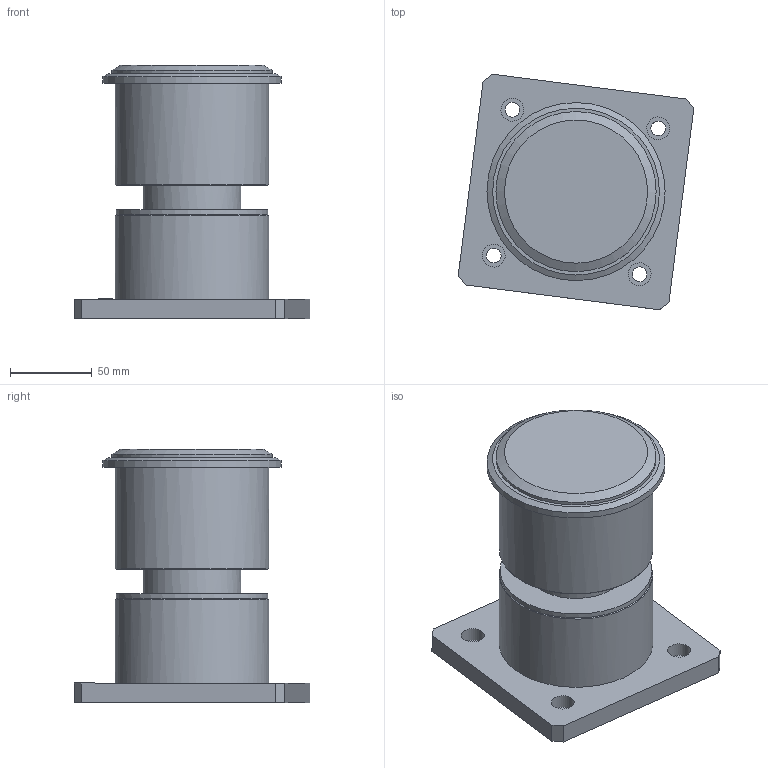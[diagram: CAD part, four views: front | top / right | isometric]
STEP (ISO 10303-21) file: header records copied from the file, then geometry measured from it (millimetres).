
FILE_DESCRIPTION(/* description */ (''),/* implementation_level */ '2;1');
FILE_NAME(/* name */ 'A:\업무자료\03. 개발\홍보자료제작\홈페이지(BKCI)\20181008 이전이력\첨부자료\STEP 파일\EFAU-15\EFFS\EFFS-15-0-UPE-S UP.stp',/* time_stamp */ '2018-11-30T13:50:05+09:00',/* author */ ('idt-l'),/* organization */ (''),/* preprocessor_version */ 'ST-DEVELOPER v16.13',/* originating_system */ 'Autodesk Inventor 2018',/* authorisation */ '');
FILE_SCHEMA (('AUTOMOTIVE_DESIGN { 1 0 10303 214 3 1 1 }'));
Length unit declared in the file: inch
Products named in the file (1): EFFS-15-0-UPE-S UP
Bounding box: 144.17 x 144.17 x 155.02 mm (x, y, z)
Volume: 1140087.9 mm3; surface area: 94380.1 mm2
Topology: 1 solids, 1 shells, 39 faces, 81 edges, 54 vertices
Faces by surface type: plane 20, cylinder 15, cone 4
Full cylindrical faces by diameter (mm): 9 x4, 14 x4, 60 x1, 93 x1, 94 x2, 94.2 x1, 98 x1, 109 x1
Entity records: 1020 total; most frequent: DIRECTION 170, CARTESIAN_POINT 146, ORIENTED_EDGE 114, EDGE_LOOP 76, AXIS2_PLACEMENT_3D 73, EDGE_CURVE 57, VERTEX_POINT 49, FACE_OUTER_BOUND 39
